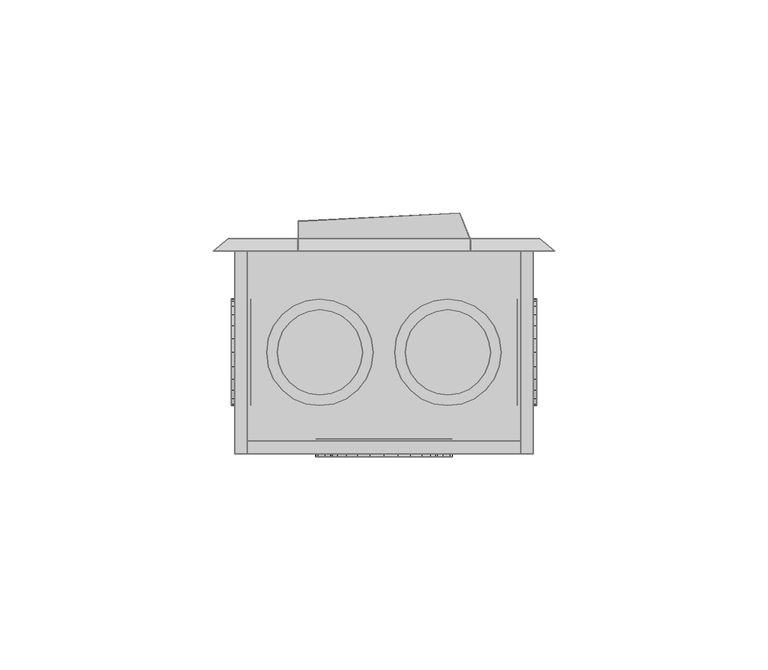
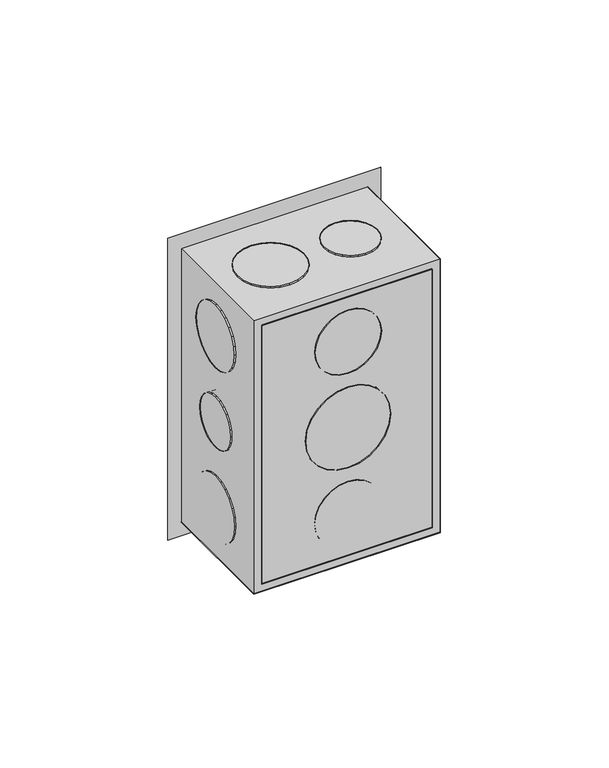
"""IFC4 building model written with IfcOpenShell, lengths in millimetres: proxy geometry,  210795 :  210795."""

from ifc_helpers import new_model, si_unit, origin, place, context, project, spatial, triangles, source, transform, mapped, element, save


def generic_models_db4ceee2(model_context):
    return source(origin(), model_context, "Body", "Tessellation", [
        triangles([(11754.1999786, 31445.4992065, 1254.3000378), (11757.1997955, 31445.4992065, 1148.7000154), (11754.1999786, 31445.4992065, 1145.6999805), (11757.1997955, 31445.4992065, 1251.2999302), (11824.2003571, 31445.4992065, 1254.3000378), (11821.2005402, 31445.4992065, 1251.2999302), (11824.2003571, 31445.4992065, 1145.6999805), (11821.2005402, 31445.4992065, 1148.7000154), (11757.1997955, 31397.9997803, 1251.2999302), (11757.1997955, 31397.9997803, 1148.7000154), (11824.2003571, 31397.9997803, 1254.3000378), (11824.2003571, 31397.9997803, 1145.6999805), (11821.2005402, 31397.9997803, 1251.2999302), (11754.1999786, 31397.9997803, 1145.6999805), (11821.2005402, 31397.9997803, 1148.7000154), (11754.1999786, 31397.9997803, 1254.3000378), (11757.1997955, 31400.9995972, 1251.2999302), (11821.2005402, 31400.9995972, 1148.7000154), (11757.1997955, 31400.9995972, 1148.7000154), (11821.2005402, 31400.9995972, 1251.2999302), (11775.2998535, 31401.4995667, 1191.9999887), (11781.1994934, 31401.4995667, 1186.0999855), (11777.8996948, 31401.4995667, 1188.6999722), (11773.6999512, 31401.4995667, 1195.8999687), (11785.0004242, 31401.4995667, 1184.5000105), (11773.1999817, 31401.4995667, 1200.0000092), (11789.2001678, 31401.4995667, 1183.9999683), (11773.6999512, 31401.4995667, 1204.0999769), (11793.2999176, 31401.4995667, 1184.5000105), (11775.2998535, 31401.4995667, 1208.0000296), (11797.1996796, 31401.4995667, 1186.0999855), (11777.8996948, 31401.4995667, 1211.2999735), (11800.4994781, 31401.4995667, 1188.6999722), (11781.1994934, 31401.4995667, 1213.9000328), (11803.0004883, 31401.4995667, 1191.9999887), (11785.0004242, 31401.4995667, 1215.5000078), (11804.6003906, 31401.4995667, 1195.8999687), (11789.2001678, 31401.4995667, 1215.9999773), (11805.200354, 31401.4995667, 1200.0000092), (11793.2999176, 31401.4995667, 1215.5000078), (11804.6003906, 31401.4995667, 1204.0999769), (11797.1996796, 31401.4995667, 1213.9000328), (11803.0004883, 31401.4995667, 1208.0000296), (11800.4994781, 31401.4995667, 1211.2999735), (11793.2999176, 31397.299823, 1184.5000105), (11789.2001678, 31397.299823, 1183.9999683), (11785.0004242, 31397.299823, 1184.5000105), (11781.1994934, 31397.299823, 1186.0999855), (11777.8996948, 31397.299823, 1188.6999722), (11775.2998535, 31397.299823, 1191.9999887), (11773.6999512, 31397.299823, 1195.8999687), (11773.1999817, 31397.299823, 1200.0000092), (11773.6999512, 31397.299823, 1204.0999769), (11775.2998535, 31397.299823, 1208.0000296), (11777.8996948, 31397.299823, 1211.2999735), (11781.1994934, 31397.299823, 1213.9000328), (11785.0004242, 31397.299823, 1215.5000078), (11789.2001678, 31397.299823, 1215.9999773), (11793.2999176, 31397.299823, 1215.5000078), (11797.1996796, 31397.299823, 1213.9000328), (11800.4994781, 31397.299823, 1211.2999735), (11803.0004883, 31397.299823, 1208.0000296), (11804.6003906, 31397.299823, 1204.0999769), (11805.200354, 31397.299823, 1200.0000092), (11804.6003906, 31397.299823, 1195.8999687), (11803.0004883, 31397.299823, 1191.9999887), (11800.4994781, 31397.299823, 1188.6999722), (11797.1996796, 31397.299823, 1186.0999855), (11778.2996704, 31401.4995667, 1227.8000565), (11782.9005524, 31401.4995667, 1223.2000465), (11780.2995483, 31401.4995667, 1225.2000698), (11777.0997437, 31401.4995667, 1230.8000187), (11785.9003693, 31401.4995667, 1221.8999805), (11776.6997681, 31401.4995667, 1233.9999687), (11789.2001678, 31401.4995667, 1221.500005), (11777.0997437, 31401.4995667, 1237.2000641), (11792.3999725, 31401.4995667, 1221.8999805), (11778.2996704, 31401.4995667, 1240.3000202), (11795.3997894, 31401.4995667, 1223.2000465), (11780.2995483, 31401.4995667, 1242.800013), (11797.9996307, 31401.4995667, 1225.2000698), (11799.9995087, 31401.4995667, 1227.8000565), (11782.9005524, 31401.4995667, 1244.8000362), (11785.9003693, 31401.4995667, 1246.0999569), (11801.1994354, 31401.4995667, 1230.8000187), (11789.2001678, 31401.4995667, 1246.4999325), (11801.7005676, 31401.4995667, 1233.9999687), (11792.3999725, 31401.4995667, 1246.0999569), (11801.1994354, 31401.4995667, 1237.2000641), (11799.9995087, 31401.4995667, 1240.3000202), (11795.3997894, 31401.4995667, 1244.8000362), (11797.9996307, 31401.4995667, 1242.800013), (11801.1994354, 31397.299823, 1230.8000187), (11799.9995087, 31397.299823, 1227.8000565), (11797.9996307, 31397.299823, 1225.2000698), (11795.3997894, 31397.299823, 1223.2000465), (11792.3999725, 31397.299823, 1221.8999805), (11789.2001678, 31397.299823, 1221.500005), (11785.9003693, 31397.299823, 1221.8999805), (11782.9005524, 31397.299823, 1223.2000465), (11780.2995483, 31397.299823, 1225.2000698), (11778.2996704, 31397.299823, 1227.8000565), (11777.0997437, 31397.299823, 1230.8000187), (11776.6997681, 31397.299823, 1233.9999687), (11777.0997437, 31397.299823, 1237.2000641), (11778.2996704, 31397.299823, 1240.3000202), (11780.2995483, 31397.299823, 1242.800013), (11782.9005524, 31397.299823, 1244.8000362), (11785.9003693, 31397.299823, 1246.0999569), (11789.2001678, 31397.299823, 1246.4999325), (11792.3999725, 31397.299823, 1246.0999569), (11795.3997894, 31397.299823, 1244.8000362), (11797.9996307, 31397.299823, 1242.800013), (11799.9995087, 31397.299823, 1240.3000202), (11801.1994354, 31397.299823, 1237.2000641), (11801.7005676, 31397.299823, 1233.9999687), (11782.9005524, 31397.299823, 1155.1999821), (11778.2996704, 31397.299823, 1159.6999981), (11780.2995483, 31397.299823, 1157.2000053), (11785.9003693, 31397.299823, 1153.8999887), (11777.0997437, 31397.299823, 1162.8000269), (11789.2001678, 31397.299823, 1153.5000132), (11776.6997681, 31397.299823, 1165.9999769), (11792.3999725, 31397.299823, 1153.8999887), (11777.0997437, 31397.299823, 1169.1999996), (11795.3997894, 31397.299823, 1155.1999821), (11778.2996704, 31397.299823, 1172.2000345), (11797.9996307, 31397.299823, 1157.2000053), (11780.2995483, 31397.299823, 1174.8000212), (11799.9995087, 31397.299823, 1159.6999981), (11782.9005524, 31397.299823, 1176.7999718), (11801.1994354, 31397.299823, 1162.8000269), (11785.9003693, 31397.299823, 1178.0999651), (11789.2001678, 31397.299823, 1178.5000134), (11801.7005676, 31397.299823, 1165.9999769), (11801.1994354, 31397.299823, 1169.1999996), (11792.3999725, 31397.299823, 1178.0999651), (11799.9995087, 31397.299823, 1172.2000345), (11795.3997894, 31397.299823, 1176.7999718), (11797.9996307, 31397.299823, 1174.8000212), (11785.9003693, 31401.4995667, 1178.0999651), (11789.2001678, 31401.4995667, 1178.5000134), (11782.9005524, 31401.4995667, 1176.7999718), (11780.2995483, 31401.4995667, 1174.8000212), (11778.2996704, 31401.4995667, 1172.2000345), (11777.0997437, 31401.4995667, 1169.1999996), (11776.6997681, 31401.4995667, 1165.9999769), (11777.0997437, 31401.4995667, 1162.8000269), (11778.2996704, 31401.4995667, 1159.6999981), (11780.2995483, 31401.4995667, 1157.2000053), (11782.9005524, 31401.4995667, 1155.1999821), (11785.9003693, 31401.4995667, 1153.8999887), (11789.2001678, 31401.4995667, 1153.5000132), (11792.3999725, 31401.4995667, 1153.8999887), (11795.3997894, 31401.4995667, 1155.1999821), (11797.9996307, 31401.4995667, 1157.2000053), (11799.9995087, 31401.4995667, 1159.6999981), (11801.1994354, 31401.4995667, 1162.8000269), (11801.7005676, 31401.4995667, 1165.9999769), (11801.1994354, 31401.4995667, 1169.1999996), (11799.9995087, 31401.4995667, 1172.2000345), (11797.9996307, 31401.4995667, 1174.8000212), (11795.3997894, 31401.4995667, 1176.7999718), (11792.3999725, 31401.4995667, 1178.0999651), (11757.9997467, 31416.8009583, 1191.3000315), (11757.9997467, 31413.0988586, 1195.0000237), (11757.9997467, 31414.7010864, 1192.9000065), (11757.9997467, 31412.0989197, 1197.4000225), (11757.9997467, 31419.2008118, 1190.3000198), (11757.9997467, 31411.798938, 1200.0000092), (11757.9997467, 31421.8006531, 1189.9999655), (11757.9997467, 31424.3005005, 1190.3000198), (11757.9997467, 31412.0989197, 1202.5999958), (11757.9997467, 31413.0988586, 1204.9999947), (11757.9997467, 31426.8003479, 1191.3000315), (11757.9997467, 31414.7010864, 1207.1000118), (11757.9997467, 31428.8002258, 1192.9000065), (11757.9997467, 31430.4001282, 1195.0000237), (11757.9997467, 31416.8009583, 1208.6999868), (11757.9997467, 31431.4000671, 1197.4000225), (11757.9997467, 31419.2008118, 1209.6999985), (11757.9997467, 31431.8000427, 1200.0000092), (11757.9997467, 31421.8006531, 1209.9999802), (11757.9997467, 31431.4000671, 1202.5999958), (11757.9997467, 31424.3005005, 1209.6999985), (11757.9997467, 31426.8003479, 1208.6999868), (11757.9997467, 31430.4001282, 1204.9999947), (11757.9997467, 31428.8002258, 1207.1000118), (11753.4000275, 31421.8006531, 1189.9999655), (11753.4000275, 31419.2008118, 1190.3000198), (11753.4000275, 31424.3005005, 1190.3000198), (11753.4000275, 31426.8003479, 1191.3000315), (11753.4000275, 31428.8002258, 1192.9000065), (11753.4000275, 31430.4001282, 1195.0000237), (11753.4000275, 31431.4000671, 1197.4000225), (11753.4000275, 31431.8000427, 1200.0000092), (11753.4000275, 31431.4000671, 1202.5999958), (11753.4000275, 31430.4001282, 1204.9999947), (11753.4000275, 31428.8002258, 1207.1000118), (11753.4000275, 31426.8003479, 1208.6999868), (11753.4000275, 31424.3005005, 1209.6999985), (11753.4000275, 31421.8006531, 1209.9999802), (11753.4000275, 31419.2008118, 1209.6999985), (11753.4000275, 31416.8009583, 1208.6999868), (11753.4000275, 31414.7010864, 1207.1000118), (11753.4000275, 31413.0988586, 1204.9999947), (11753.4000275, 31412.0989197, 1202.5999958), (11753.4000275, 31411.798938, 1200.0000092), (11753.4000275, 31412.0989197, 1197.4000225), (11753.4000275, 31413.0988586, 1195.0000237), (11753.4000275, 31414.7010864, 1192.9000065), (11753.4000275, 31416.8009583, 1191.3000315), (11757.9997467, 31415.5010376, 1223.2000465), (11757.9997467, 31410.8989929, 1227.8000565), (11757.9997467, 31412.8988708, 1225.2000698), (11757.9997467, 31418.5008545, 1221.8999805), (11757.9997467, 31409.6990662, 1230.8000187), (11757.9997467, 31409.2990906, 1233.9999687), (11757.9997467, 31421.8006531, 1221.500005), (11757.9997467, 31425.0004578, 1221.8999805), (11757.9997467, 31409.6990662, 1237.2000641), (11757.9997467, 31410.8989929, 1240.3000202), (11757.9997467, 31428.0002747, 1223.2000465), (11757.9997467, 31430.600116, 1225.2000698), (11757.9997467, 31412.8988708, 1242.800013), (11757.9997467, 31432.5999939, 1227.8000565), (11757.9997467, 31415.5010376, 1244.8000362), (11757.9997467, 31433.7999207, 1230.8000187), (11757.9997467, 31418.5008545, 1246.0999569), (11757.9997467, 31434.2998901, 1233.9999687), (11757.9997467, 31421.8006531, 1246.4999325), (11757.9997467, 31433.7999207, 1237.2000641), (11757.9997467, 31425.0004578, 1246.0999569), (11757.9997467, 31432.5999939, 1240.3000202), (11757.9997467, 31428.0002747, 1244.8000362), (11757.9997467, 31430.600116, 1242.800013), (11753.4000275, 31421.8006531, 1221.500005), (11753.4000275, 31418.5008545, 1221.8999805), (11753.4000275, 31425.0004578, 1221.8999805), (11753.4000275, 31428.0002747, 1223.2000465), (11753.4000275, 31430.600116, 1225.2000698), (11753.4000275, 31432.5999939, 1227.8000565), (11753.4000275, 31433.7999207, 1230.8000187), (11753.4000275, 31434.2998901, 1233.9999687), (11753.4000275, 31433.7999207, 1237.2000641), (11753.4000275, 31432.5999939, 1240.3000202), (11753.4000275, 31430.600116, 1242.800013), (11753.4000275, 31428.0002747, 1244.8000362), (11753.4000275, 31425.0004578, 1246.0999569), (11753.4000275, 31421.8006531, 1246.4999325), (11753.4000275, 31418.5008545, 1246.0999569), (11753.4000275, 31415.5010376, 1244.8000362), (11753.4000275, 31412.8988708, 1242.800013), (11753.4000275, 31410.8989929, 1240.3000202), (11753.4000275, 31409.6990662, 1237.2000641), (11753.4000275, 31409.2990906, 1233.9999687), (11753.4000275, 31409.6990662, 1230.8000187), (11753.4000275, 31410.8989929, 1227.8000565), (11753.4000275, 31412.8988708, 1225.2000698), (11753.4000275, 31415.5010376, 1223.2000465), (11753.4000275, 31410.8989929, 1159.6999981), (11753.4000275, 31415.5010376, 1155.1999821), (11753.4000275, 31412.8988708, 1157.2000053), (11753.4000275, 31409.6990662, 1162.8000269), (11753.4000275, 31418.5008545, 1153.8999887), (11753.4000275, 31409.2990906, 1165.9999769), (11753.4000275, 31421.8006531, 1153.5000132), (11753.4000275, 31409.6990662, 1169.1999996), (11753.4000275, 31425.0004578, 1153.8999887), (11753.4000275, 31410.8989929, 1172.2000345), (11753.4000275, 31428.0002747, 1155.1999821), (11753.4000275, 31412.8988708, 1174.8000212), (11753.4000275, 31430.600116, 1157.2000053), (11753.4000275, 31415.5010376, 1176.7999718), (11753.4000275, 31432.5999939, 1159.6999981), (11753.4000275, 31418.5008545, 1178.0999651), (11753.4000275, 31433.7999207, 1162.8000269), (11753.4000275, 31421.8006531, 1178.5000134), (11753.4000275, 31434.2998901, 1165.9999769), (11753.4000275, 31425.0004578, 1178.0999651), (11753.4000275, 31433.7999207, 1169.1999996), (11753.4000275, 31428.0002747, 1176.7999718), (11753.4000275, 31432.5999939, 1172.2000345), (11753.4000275, 31430.600116, 1174.8000212), (11757.9997467, 31418.5008545, 1178.0999651), (11757.9997467, 31421.8006531, 1178.5000134), (11757.9997467, 31425.0004578, 1178.0999651), (11757.9997467, 31428.0002747, 1176.7999718), (11757.9997467, 31430.600116, 1174.8000212), (11757.9997467, 31432.5999939, 1172.2000345), (11757.9997467, 31433.7999207, 1169.1999996), (11757.9997467, 31434.2998901, 1165.9999769), (11757.9997467, 31433.7999207, 1162.8000269), (11757.9997467, 31432.5999939, 1159.6999981), (11757.9997467, 31430.600116, 1157.2000053), (11757.9997467, 31428.0002747, 1155.1999821), (11757.9997467, 31425.0004578, 1153.8999887), (11757.9997467, 31421.8006531, 1153.5000132), (11757.9997467, 31418.5008545, 1153.8999887), (11757.9997467, 31415.5010376, 1155.1999821), (11757.9997467, 31412.8988708, 1157.2000053), (11757.9997467, 31410.8989929, 1159.6999981), (11757.9997467, 31409.6990662, 1162.8000269), (11757.9997467, 31409.2990906, 1165.9999769), (11757.9997467, 31409.6990662, 1169.1999996), (11757.9997467, 31410.8989929, 1172.2000345), (11757.9997467, 31412.8988708, 1174.8000212), (11757.9997467, 31415.5010376, 1176.7999718), (11820.3994263, 31413.0988586, 1195.0000237), (11820.3994263, 31416.8009583, 1191.3000315), (11820.3994263, 31414.7010864, 1192.9000065), (11820.3994263, 31412.0989197, 1197.4000225), (11820.3994263, 31419.2008118, 1190.3000198), (11820.3994263, 31411.798938, 1200.0000092), (11820.3994263, 31421.8006531, 1189.9999655), (11820.3994263, 31412.0989197, 1202.5999958), (11820.3994263, 31424.3005005, 1190.3000198), (11820.3994263, 31413.0988586, 1204.9999947), (11820.3994263, 31426.8003479, 1191.3000315), (11820.3994263, 31414.7010864, 1207.1000118), (11820.3994263, 31428.8002258, 1192.9000065), (11820.3994263, 31416.8009583, 1208.6999868), (11820.3994263, 31430.4001282, 1195.0000237), (11820.3994263, 31419.2008118, 1209.6999985), (11820.3994263, 31431.4000671, 1197.4000225), (11820.3994263, 31431.8000427, 1200.0000092), (11820.3994263, 31421.8006531, 1209.9999802), (11820.3994263, 31424.3005005, 1209.6999985), (11820.3994263, 31431.4000671, 1202.5999958), (11820.3994263, 31426.8003479, 1208.6999868), (11820.3994263, 31430.4001282, 1204.9999947), (11820.3994263, 31428.8002258, 1207.1000118), (11825.0003082, 31419.2008118, 1209.6999985), (11825.0003082, 31421.8006531, 1209.9999802), (11825.0003082, 31424.3005005, 1209.6999985), (11825.0003082, 31426.8003479, 1208.6999868), (11825.0003082, 31428.8002258, 1207.1000118), (11825.0003082, 31430.4001282, 1204.9999947), (11825.0003082, 31431.4000671, 1202.5999958), (11825.0003082, 31431.8000427, 1200.0000092), (11825.0003082, 31431.4000671, 1197.4000225), (11825.0003082, 31430.4001282, 1195.0000237), (11825.0003082, 31428.8002258, 1192.9000065), (11825.0003082, 31426.8003479, 1191.3000315), (11825.0003082, 31424.3005005, 1190.3000198), (11825.0003082, 31421.8006531, 1189.9999655), (11825.0003082, 31419.2008118, 1190.3000198), (11825.0003082, 31416.8009583, 1191.3000315), (11825.0003082, 31414.7010864, 1192.9000065), (11825.0003082, 31413.0988586, 1195.0000237), (11825.0003082, 31412.0989197, 1197.4000225), (11825.0003082, 31411.798938, 1200.0000092), (11825.0003082, 31412.0989197, 1202.5999958), (11825.0003082, 31413.0988586, 1204.9999947), (11825.0003082, 31414.7010864, 1207.1000118), (11825.0003082, 31416.8009583, 1208.6999868), (11820.3994263, 31410.8989929, 1159.6999981), (11820.3994263, 31415.5010376, 1155.1999821), (11820.3994263, 31412.8988708, 1157.2000053), (11820.3994263, 31409.6990662, 1162.8000269), (11820.3994263, 31418.5008545, 1153.8999887), (11820.3994263, 31409.2990906, 1165.9999769), (11820.3994263, 31421.8006531, 1153.5000132), (11820.3994263, 31409.6990662, 1169.1999996), (11820.3994263, 31425.0004578, 1153.8999887), (11820.3994263, 31410.8989929, 1172.2000345), (11820.3994263, 31428.0002747, 1155.1999821), (11820.3994263, 31412.8988708, 1174.8000212), (11820.3994263, 31430.600116, 1157.2000053), (11820.3994263, 31415.5010376, 1176.7999718), (11820.3994263, 31432.5999939, 1159.6999981), (11820.3994263, 31418.5008545, 1178.0999651), (11820.3994263, 31433.7999207, 1162.8000269), (11820.3994263, 31421.8006531, 1178.5000134), (11820.3994263, 31434.2998901, 1165.9999769), (11820.3994263, 31425.0004578, 1178.0999651), (11820.3994263, 31433.7999207, 1169.1999996), (11820.3994263, 31428.0002747, 1176.7999718), (11820.3994263, 31432.5999939, 1172.2000345), (11820.3994263, 31430.600116, 1174.8000212), (11825.0003082, 31418.5008545, 1178.0999651), (11825.0003082, 31421.8006531, 1178.5000134), (11825.0003082, 31425.0004578, 1178.0999651), (11825.0003082, 31428.0002747, 1176.7999718), (11825.0003082, 31430.600116, 1174.8000212), (11825.0003082, 31432.5999939, 1172.2000345), (11825.0003082, 31433.7999207, 1169.1999996), (11825.0003082, 31434.2998901, 1165.9999769), (11825.0003082, 31433.7999207, 1162.8000269), (11825.0003082, 31432.5999939, 1159.6999981), (11825.0003082, 31430.600116, 1157.2000053), (11825.0003082, 31428.0002747, 1155.1999821), (11825.0003082, 31425.0004578, 1153.8999887), (11825.0003082, 31421.8006531, 1153.5000132), (11825.0003082, 31418.5008545, 1153.8999887), (11825.0003082, 31415.5010376, 1155.1999821), (11825.0003082, 31412.8988708, 1157.2000053), (11825.0003082, 31410.8989929, 1159.6999981), (11825.0003082, 31409.6990662, 1162.8000269), (11825.0003082, 31409.2990906, 1165.9999769), (11825.0003082, 31409.6990662, 1169.1999996), (11825.0003082, 31410.8989929, 1172.2000345), (11825.0003082, 31412.8988708, 1174.8000212), (11825.0003082, 31415.5010376, 1176.7999718), (11825.0003082, 31415.5010376, 1223.2000465), (11825.0003082, 31410.8989929, 1227.8000565), (11825.0003082, 31412.8988708, 1225.2000698), (11825.0003082, 31418.5008545, 1221.8999805), (11825.0003082, 31409.6990662, 1230.8000187), (11825.0003082, 31409.2990906, 1233.9999687), (11825.0003082, 31421.8006531, 1221.500005), (11825.0003082, 31425.0004578, 1221.8999805), (11825.0003082, 31409.6990662, 1237.2000641), (11825.0003082, 31410.8989929, 1240.3000202), (11825.0003082, 31428.0002747, 1223.2000465), (11825.0003082, 31430.600116, 1225.2000698), (11825.0003082, 31412.8988708, 1242.800013), (11825.0003082, 31432.5999939, 1227.8000565), (11825.0003082, 31415.5010376, 1244.8000362), (11825.0003082, 31433.7999207, 1230.8000187), (11825.0003082, 31418.5008545, 1246.0999569), (11825.0003082, 31434.2998901, 1233.9999687), (11825.0003082, 31421.8006531, 1246.4999325), (11825.0003082, 31433.7999207, 1237.2000641), (11825.0003082, 31425.0004578, 1246.0999569), (11825.0003082, 31432.5999939, 1240.3000202), (11825.0003082, 31428.0002747, 1244.8000362), (11825.0003082, 31430.600116, 1242.800013), (11820.3994263, 31421.8006531, 1221.500005), (11820.3994263, 31418.5008545, 1221.8999805), (11820.3994263, 31425.0004578, 1221.8999805), (11820.3994263, 31428.0002747, 1223.2000465), (11820.3994263, 31430.600116, 1225.2000698), (11820.3994263, 31432.5999939, 1227.8000565), (11820.3994263, 31433.7999207, 1230.8000187), (11820.3994263, 31434.2998901, 1233.9999687), (11820.3994263, 31433.7999207, 1237.2000641), (11820.3994263, 31432.5999939, 1240.3000202), (11820.3994263, 31430.600116, 1242.800013), (11820.3994263, 31428.0002747, 1244.8000362), (11820.3994263, 31425.0004578, 1246.0999569), (11820.3994263, 31421.8006531, 1246.4999325), (11820.3994263, 31418.5008545, 1246.0999569), (11820.3994263, 31415.5010376, 1244.8000362), (11820.3994263, 31412.8988708, 1242.800013), (11820.3994263, 31410.8989929, 1240.3000202), (11820.3994263, 31409.6990662, 1237.2000641), (11820.3994263, 31409.2990906, 1233.9999687), (11820.3994263, 31409.6990662, 1230.8000187), (11820.3994263, 31410.8989929, 1227.8000565), (11820.3994263, 31412.8988708, 1225.2000698), (11820.3994263, 31415.5010376, 1223.2000465), (11763.2994232, 31415.5010376, 1250.9999485), (11767.9003052, 31410.8989929, 1250.9999485), (11765.3004639, 31412.8988708, 1250.9999485), (11762.0994965, 31418.5008545, 1250.9999485), (11770.9001221, 31409.6990662, 1250.9999485), (11774.1999207, 31409.2990906, 1250.9999485), (11761.6995209, 31421.8006531, 1250.9999485), (11762.0994965, 31425.0004578, 1250.9999485), (11777.3997253, 31409.6990662, 1250.9999485), (11780.3995422, 31410.8989929, 1250.9999485), (11763.2994232, 31428.0002747, 1250.9999485), (11765.3004639, 31430.600116, 1250.9999485), (11783.0005463, 31412.8988708, 1250.9999485), (11785.0004242, 31415.5010376, 1250.9999485), (11767.9003052, 31432.5999939, 1250.9999485), (11770.9001221, 31433.7999207, 1250.9999485), (11786.200351, 31418.5008545, 1250.9999485), (11774.1999207, 31434.2998901, 1250.9999485), (11786.7003204, 31421.8006531, 1250.9999485), (11777.3997253, 31433.7999207, 1250.9999485), (11786.200351, 31425.0004578, 1250.9999485), (11785.0004242, 31428.0002747, 1250.9999485), (11780.3995422, 31432.5999939, 1250.9999485), (11783.0005463, 31430.600116, 1250.9999485), (11774.1999207, 31409.2990906, 1255.1999828), (11777.3997253, 31409.6990662, 1255.1999828), (11770.9001221, 31409.6990662, 1255.1999828), (11767.9003052, 31410.8989929, 1255.1999828), (11765.3004639, 31412.8988708, 1255.1999828), (11763.2994232, 31415.5010376, 1255.1999828), (11762.0994965, 31418.5008545, 1255.1999828), (11761.6995209, 31421.8006531, 1255.1999828), (11762.0994965, 31425.0004578, 1255.1999828), (11763.2994232, 31428.0002747, 1255.1999828), (11765.3004639, 31430.600116, 1255.1999828), (11767.9003052, 31432.5999939, 1255.1999828), (11770.9001221, 31433.7999207, 1255.1999828), (11774.1999207, 31434.2998901, 1255.1999828), (11777.3997253, 31433.7999207, 1255.1999828), (11780.3995422, 31432.5999939, 1255.1999828), (11783.0005463, 31430.600116, 1255.1999828), (11785.0004242, 31428.0002747, 1255.1999828), (11786.200351, 31425.0004578, 1255.1999828), (11786.7003204, 31421.8006531, 1255.1999828), (11786.200351, 31418.5008545, 1255.1999828), (11785.0004242, 31415.5010376, 1255.1999828), (11783.0005463, 31412.8988708, 1255.1999828), (11780.3995422, 31410.8989929, 1255.1999828), (11795.4997833, 31416.8009583, 1250.9999485), (11799.1995575, 31413.0988586, 1250.9999485), (11797.0996857, 31414.7010864, 1250.9999485), (11801.6005737, 31412.0989197, 1250.9999485), (11794.4998444, 31419.2008118, 1250.9999485), (11804.200415, 31411.798938, 1250.9999485), (11794.1998627, 31421.8006531, 1250.9999485), (11794.4998444, 31424.3005005, 1250.9999485), (11806.8002563, 31412.0989197, 1250.9999485), (11809.2001099, 31413.0988586, 1250.9999485), (11795.4997833, 31426.8003479, 1250.9999485), (11811.1999878, 31414.7010864, 1250.9999485), (11797.0996857, 31428.8002258, 1250.9999485), (11799.1995575, 31430.4001282, 1250.9999485), (11812.7998901, 31416.8009583, 1250.9999485), (11813.7998291, 31419.2008118, 1250.9999485), (11801.6005737, 31431.4000671, 1250.9999485), (11804.200415, 31431.8000427, 1250.9999485), (11814.1998047, 31421.8006531, 1250.9999485), (11806.8002563, 31431.4000671, 1250.9999485), (11813.7998291, 31424.3005005, 1250.9999485), (11809.2001099, 31430.4001282, 1250.9999485), (11812.7998901, 31426.8003479, 1250.9999485), (11811.1999878, 31428.8002258, 1250.9999485), (11806.8002563, 31412.0989197, 1255.1999828), (11809.2001099, 31413.0988586, 1255.1999828), (11804.200415, 31411.798938, 1255.1999828), (11801.6005737, 31412.0989197, 1255.1999828), (11799.1995575, 31413.0988586, 1255.1999828), (11797.0996857, 31414.7010864, 1255.1999828), (11795.4997833, 31416.8009583, 1255.1999828), (11794.4998444, 31419.2008118, 1255.1999828), (11794.1998627, 31421.8006531, 1255.1999828), (11794.4998444, 31424.3005005, 1255.1999828), (11795.4997833, 31426.8003479, 1255.1999828), (11797.0996857, 31428.8002258, 1255.1999828), (11799.1995575, 31430.4001282, 1255.1999828), (11801.6005737, 31431.4000671, 1255.1999828), (11804.200415, 31431.8000427, 1255.1999828), (11806.8002563, 31431.4000671, 1255.1999828), (11809.2001099, 31430.4001282, 1255.1999828), (11811.1999878, 31428.8002258, 1255.1999828), (11812.7998901, 31426.8003479, 1255.1999828), (11813.7998291, 31424.3005005, 1255.1999828), (11814.1998047, 31421.8006531, 1255.1999828), (11813.7998291, 31419.2008118, 1255.1999828), (11812.7998901, 31416.8009583, 1255.1999828), (11811.1999878, 31414.7010864, 1255.1999828), (11765.5004517, 31416.8009583, 1144.8000355), (11769.2002258, 31413.0988586, 1144.8000355), (11767.100354, 31414.7010864, 1144.8000355), (11771.6000793, 31412.0989197, 1144.8000355), (11764.5005127, 31419.2008118, 1144.8000355), (11774.1999207, 31411.798938, 1144.8000355), (11764.200531, 31421.8006531, 1144.8000355), (11764.5005127, 31424.3005005, 1144.8000355), (11776.799762, 31412.0989197, 1144.8000355), (11779.1996155, 31413.0988586, 1144.8000355), (11765.5004517, 31426.8003479, 1144.8000355), (11781.1994934, 31414.7010864, 1144.8000355), (11767.100354, 31428.8002258, 1144.8000355), (11769.2002258, 31430.4001282, 1144.8000355), (11782.8005585, 31416.8009583, 1144.8000355), (11783.8004974, 31419.2008118, 1144.8000355), (11771.6000793, 31431.4000671, 1144.8000355), (11774.1999207, 31431.8000427, 1144.8000355), (11784.200473, 31421.8006531, 1144.8000355), (11776.799762, 31431.4000671, 1144.8000355), (11783.8004974, 31424.3005005, 1144.8000355), (11779.1996155, 31430.4001282, 1144.8000355), (11782.8005585, 31426.8003479, 1144.8000355), (11781.1994934, 31428.8002258, 1144.8000355), (11771.6000793, 31412.0989197, 1149.099991), (11774.1999207, 31411.798938, 1149.099991), (11769.2002258, 31413.0988586, 1149.099991), (11767.100354, 31414.7010864, 1149.099991), (11765.5004517, 31416.8009583, 1149.099991), (11764.5005127, 31419.2008118, 1149.099991), (11764.200531, 31421.8006531, 1149.099991), (11764.5005127, 31424.3005005, 1149.099991), (11765.5004517, 31426.8003479, 1149.099991), (11767.100354, 31428.8002258, 1149.099991), (11769.2002258, 31430.4001282, 1149.099991), (11771.6000793, 31431.4000671, 1149.099991), (11774.1999207, 31431.8000427, 1149.099991), (11776.799762, 31431.4000671, 1149.099991), (11779.1996155, 31430.4001282, 1149.099991), (11781.1994934, 31428.8002258, 1149.099991), (11782.8005585, 31426.8003479, 1149.099991), (11783.8004974, 31424.3005005, 1149.099991), (11784.200473, 31421.8006531, 1149.099991), (11783.8004974, 31419.2008118, 1149.099991), (11782.8005585, 31416.8009583, 1149.099991), (11781.1994934, 31414.7010864, 1149.099991), (11779.1996155, 31413.0988586, 1149.099991), (11776.799762, 31412.0989197, 1149.099991), (11793.2999176, 31415.5010376, 1144.8000355), (11797.8996368, 31410.8989929, 1144.8000355), (11795.2997955, 31412.8988708, 1144.8000355), (11792.0999908, 31418.5008545, 1144.8000355), (11800.8994537, 31409.6990662, 1144.8000355), (11804.200415, 31409.2990906, 1144.8000355), (11791.7000153, 31421.8006531, 1144.8000355), (11792.0999908, 31425.0004578, 1144.8000355), (11807.4002197, 31409.6990662, 1144.8000355), (11810.4000366, 31410.8989929, 1144.8000355), (11793.2999176, 31428.0002747, 1144.8000355), (11795.2997955, 31430.600116, 1144.8000355), (11812.9998779, 31412.8988708, 1144.8000355), (11814.9997559, 31415.5010376, 1144.8000355), (11797.8996368, 31432.5999939, 1144.8000355), (11800.8994537, 31433.7999207, 1144.8000355), (11816.1996826, 31418.5008545, 1144.8000355), (11804.200415, 31434.2998901, 1144.8000355), (11816.6996521, 31421.8006531, 1144.8000355), (11807.4002197, 31433.7999207, 1144.8000355), (11816.1996826, 31425.0004578, 1144.8000355), (11814.9997559, 31428.0002747, 1144.8000355), (11810.4000366, 31432.5999939, 1144.8000355), (11812.9998779, 31430.600116, 1144.8000355), (11807.4002197, 31409.6990662, 1149.099991), (11810.4000366, 31410.8989929, 1149.099991), (11804.200415, 31409.2990906, 1149.099991), (11800.8994537, 31409.6990662, 1149.099991), (11797.8996368, 31410.8989929, 1149.099991), (11795.2997955, 31412.8988708, 1149.099991), (11793.2999176, 31415.5010376, 1149.099991), (11792.0999908, 31418.5008545, 1149.099991), (11791.7000153, 31421.8006531, 1149.099991), (11792.0999908, 31425.0004578, 1149.099991), (11793.2999176, 31428.0002747, 1149.099991), (11795.2997955, 31430.600116, 1149.099991), (11797.8996368, 31432.5999939, 1149.099991), (11800.8994537, 31433.7999207, 1149.099991), (11804.200415, 31434.2998901, 1149.099991), (11807.4002197, 31433.7999207, 1149.099991), (11810.4000366, 31432.5999939, 1149.099991), (11812.9998779, 31430.600116, 1149.099991), (11814.9997559, 31428.0002747, 1149.099991), (11816.1996826, 31425.0004578, 1149.099991), (11816.6996521, 31421.8006531, 1149.099991), (11816.1996826, 31418.5008545, 1149.099991), (11814.9997559, 31415.5010376, 1149.099991), (11812.9998779, 31412.8988708, 1149.099991), (11829.2000519, 31445.4992065, 1139.9999651), (11769.000238, 31445.4992065, 1188.2999966), (11749.2002838, 31445.4992065, 1139.9999651), (11809.4000977, 31445.4992065, 1188.2999966), (11829.2000519, 31445.4992065, 1259.9999805), (11809.4000977, 31445.4992065, 1211.7000217), (11749.2002838, 31445.4992065, 1259.9999805), (11769.000238, 31445.4992065, 1211.7000217), (11809.4000977, 31448.4990234, 1188.2999966), (11809.4000977, 31448.4990234, 1211.7000217), (11769.000238, 31448.4990234, 1188.2999966), (11769.000238, 31448.4990234, 1211.7000217), (11752.7000702, 31448.4990234, 1143.4999695), (11752.7000702, 31448.4990234, 1256.5000488), (11825.7002655, 31448.4990234, 1143.4999695), (11825.7002655, 31448.4990234, 1256.5000488), (11769.1002319, 31452.5011047, 1188.1000088), (11809.5000916, 31445.4992065, 1188.1000088), (11769.1002319, 31445.4992065, 1188.1000088), (11806.9002502, 31454.4009888, 1188.1000088), (11809.5000916, 31447.999054, 1188.1000088), (11769.1002319, 31445.4992065, 1211.500034), (11809.5000916, 31445.4992065, 1211.500034), (11769.1002319, 31452.5011047, 1211.500034), (11806.9002502, 31454.4009888, 1211.500034), (11809.5000916, 31447.999054, 1211.500034)], [[1, 2, 3], [2, 1, 4], [5, 4, 1], [4, 5, 6], [3, 2, 7], [7, 2, 8], [7, 8, 6], [7, 6, 5], [2, 9, 10], [9, 2, 4], [7, 11, 12], [11, 7, 5], [4, 13, 9], [13, 4, 6], [3, 12, 14], [12, 3, 7], [13, 8, 15], [8, 13, 6], [16, 3, 14], [3, 16, 1], [15, 2, 10], [2, 15, 8], [11, 1, 16], [1, 11, 5], [12, 10, 14], [10, 12, 15], [11, 15, 12], [15, 11, 13], [14, 10, 16], [16, 10, 9], [16, 9, 13], [16, 13, 11], [17, 18, 19], [18, 17, 20], [18, 13, 15], [13, 18, 20], [19, 15, 10], [15, 19, 18], [9, 19, 10], [19, 9, 17], [13, 17, 9], [17, 13, 20], [15, 9, 10], [9, 15, 13], [21, 22, 23], [22, 21, 24], [25, 22, 24], [25, 24, 26], [27, 25, 26], [27, 26, 28], [29, 27, 28], [29, 28, 30], [31, 29, 30], [31, 30, 32], [31, 32, 33], [33, 32, 34], [33, 34, 35], [35, 34, 36], [35, 36, 37], [37, 36, 38], [37, 38, 39], [39, 38, 40], [39, 40, 41], [41, 40, 42], [41, 42, 43], [43, 42, 44], [27, 45, 46], [45, 27, 29], [25, 46, 47], [46, 25, 27], [22, 47, 48], [47, 22, 25], [23, 48, 49], [48, 23, 22], [50, 23, 49], [23, 50, 21], [51, 21, 50], [21, 51, 24], [52, 24, 51], [24, 52, 26], [53, 26, 52], [26, 53, 28], [54, 28, 53], [28, 54, 30], [55, 30, 54], [30, 55, 32], [56, 32, 55], [32, 56, 34], [57, 34, 56], [34, 57, 36], [58, 36, 57], [36, 58, 38], [59, 38, 58], [38, 59, 40], [60, 40, 59], [40, 60, 42], [61, 42, 60], [42, 61, 44], [43, 61, 62], [61, 43, 44], [41, 62, 63], [62, 41, 43], [39, 63, 64], [63, 39, 41], [37, 64, 65], [64, 37, 39], [35, 65, 66], [65, 35, 37], [33, 66, 67], [66, 33, 35], [31, 67, 68], [67, 31, 33], [29, 68, 45], [68, 29, 31], [48, 50, 49], [50, 48, 47], [51, 50, 47], [51, 47, 46], [52, 51, 46], [52, 46, 45], [53, 52, 45], [53, 45, 68], [54, 53, 68], [54, 68, 67], [54, 67, 55], [55, 67, 66], [55, 66, 56], [56, 66, 65], [56, 65, 57], [57, 65, 64], [57, 64, 58], [58, 64, 63], [58, 63, 59], [59, 63, 62], [59, 62, 60], [60, 62, 61], [69, 70, 71], [70, 69, 72], [73, 70, 72], [73, 72, 74], [75, 73, 74], [75, 74, 76], [77, 75, 76], [77, 76, 78], [79, 77, 78], [79, 78, 80], [81, 79, 80], [81, 80, 82], [82, 80, 83], [82, 83, 84], [82, 84, 85], [85, 84, 86], [85, 86, 87], [87, 86, 88], [87, 88, 89], [89, 88, 90], [90, 88, 91], [90, 91, 92], [82, 93, 94], [93, 82, 85], [81, 94, 95], [94, 81, 82], [79, 95, 96], [95, 79, 81], [77, 96, 97], [96, 77, 79], [75, 97, 98], [97, 75, 77], [73, 98, 99], [98, 73, 75], [70, 99, 100], [99, 70, 73], [71, 100, 101], [100, 71, 70], [102, 71, 101], [71, 102, 69], [103, 69, 102], [69, 103, 72], [104, 72, 103], [72, 104, 74], [105, 74, 104], [74, 105, 76], [106, 76, 105], [76, 106, 78], [107, 78, 106], [78, 107, 80], [108, 80, 107], [80, 108, 83], [109, 83, 108], [83, 109, 84], [110, 84, 109], [84, 110, 86], [111, 86, 110], [86, 111, 88], [112, 88, 111], [88, 112, 91], [113, 91, 112], [91, 113, 92], [90, 113, 114], [113, 90, 92], [89, 114, 115], [114, 89, 90], [87, 115, 116], [115, 87, 89], [85, 116, 93], [116, 85, 87], [100, 102, 101], [102, 100, 99], [103, 102, 99], [103, 99, 98], [104, 103, 98], [104, 98, 97], [105, 104, 97], [106, 105, 97], [106, 97, 96], [106, 96, 95], [106, 95, 107], [107, 95, 94], [107, 94, 108], [108, 94, 93], [108, 93, 109], [109, 93, 116], [109, 116, 110], [110, 116, 115], [110, 115, 111], [111, 115, 114], [111, 114, 112], [112, 114, 113], [117, 118, 119], [118, 117, 120], [121, 118, 120], [121, 120, 122], [123, 121, 122], [123, 122, 124], [125, 123, 124], [125, 124, 126], [127, 125, 126], [127, 126, 128], [127, 128, 129], [129, 128, 130], [129, 130, 131], [131, 130, 132], [131, 132, 133], [133, 132, 134], [134, 132, 135], [134, 135, 136], [134, 136, 137], [137, 136, 138], [137, 138, 139], [139, 138, 140], [134, 141, 133], [141, 134, 142], [133, 143, 131], [143, 133, 141], [131, 144, 129], [144, 131, 143], [129, 145, 127], [145, 129, 144], [127, 146, 125], [146, 127, 145], [125, 147, 123], [147, 125, 146], [123, 148, 121], [148, 123, 147], [121, 149, 118], [149, 121, 148], [118, 150, 119], [150, 118, 149], [150, 117, 119], [117, 150, 151], [151, 120, 117], [120, 151, 152], [152, 122, 120], [122, 152, 153], [153, 124, 122], [124, 153, 154], [154, 126, 124], [126, 154, 155], [155, 128, 126], [128, 155, 156], [156, 130, 128], [130, 156, 157], [157, 132, 130], [132, 157, 158], [158, 135, 132], [135, 158, 159], [159, 136, 135], [136, 159, 160], [160, 138, 136], [138, 160, 161], [161, 140, 138], [140, 161, 162], [140, 163, 139], [163, 140, 162], [139, 164, 137], [164, 139, 163], [137, 142, 134], [142, 137, 164], [149, 151, 150], [151, 149, 148], [152, 151, 148], [153, 152, 148], [153, 148, 147], [153, 147, 146], [154, 153, 146], [154, 146, 145], [155, 154, 145], [155, 145, 144], [156, 155, 144], [156, 144, 157], [157, 144, 143], [157, 143, 141], [157, 141, 158], [158, 141, 142], [158, 142, 159], [159, 142, 164], [159, 164, 160], [160, 164, 163], [160, 163, 161], [161, 163, 162], [165, 166, 167], [168, 166, 165], [168, 165, 169], [170, 168, 169], [170, 169, 171], [170, 171, 172], [173, 170, 172], [174, 173, 172], [174, 172, 175], [176, 174, 175], [176, 175, 177], [176, 177, 178], [176, 178, 179], [179, 178, 180], [179, 180, 181], [181, 180, 182], [181, 182, 183], [183, 182, 184], [183, 184, 185], [185, 184, 186], [186, 184, 187], [186, 187, 188], [189, 169, 190], [169, 189, 171], [191, 171, 189], [171, 191, 172], [192, 172, 191], [172, 192, 175], [193, 175, 192], [175, 193, 177], [194, 177, 193], [177, 194, 178], [195, 178, 194], [178, 195, 180], [196, 180, 195], [180, 196, 182], [197, 182, 196], [182, 197, 184], [198, 184, 197], [184, 198, 187], [199, 187, 198], [187, 199, 188], [186, 199, 200], [199, 186, 188], [185, 200, 201], [200, 185, 186], [183, 201, 202], [201, 183, 185], [181, 202, 203], [202, 181, 183], [179, 203, 204], [203, 179, 181], [176, 204, 205], [204, 176, 179], [174, 205, 206], [205, 174, 176], [173, 206, 207], [206, 173, 174], [170, 207, 208], [207, 170, 173], [168, 208, 209], [208, 168, 170], [166, 209, 210], [209, 166, 168], [167, 210, 211], [210, 167, 166], [212, 167, 211], [167, 212, 165], [190, 165, 212], [165, 190, 169], [210, 212, 211], [212, 210, 209], [190, 212, 209], [190, 209, 208], [189, 190, 208], [189, 208, 207], [191, 189, 207], [191, 207, 206], [192, 191, 206], [192, 206, 205], [192, 205, 193], [193, 205, 204], [193, 204, 194], [194, 204, 203], [194, 203, 195], [195, 203, 196], [196, 203, 202], [196, 202, 201], [196, 201, 197], [197, 201, 200], [197, 200, 198], [198, 200, 199], [213, 214, 215], [214, 213, 216], [217, 214, 216], [218, 217, 216], [218, 216, 219], [218, 219, 220], [221, 218, 220], [222, 221, 220], [222, 220, 223], [222, 223, 224], [222, 224, 225], [225, 224, 226], [225, 226, 227], [227, 226, 228], [227, 228, 229], [229, 228, 230], [229, 230, 231], [231, 230, 232], [231, 232, 233], [233, 232, 234], [233, 234, 235], [235, 234, 236], [237, 216, 238], [216, 237, 219], [239, 219, 237], [219, 239, 220], [240, 220, 239], [220, 240, 223], [241, 223, 240], [223, 241, 224], [242, 224, 241], [224, 242, 226], [243, 226, 242], [226, 243, 228], [244, 228, 243], [228, 244, 230], [245, 230, 244], [230, 245, 232], [246, 232, 245], [232, 246, 234], [247, 234, 246], [234, 247, 236], [235, 247, 248], [247, 235, 236], [233, 248, 249], [248, 233, 235], [231, 249, 250], [249, 231, 233], [229, 250, 251], [250, 229, 231], [227, 251, 252], [251, 227, 229], [225, 252, 253], [252, 225, 227], [222, 253, 254], [253, 222, 225], [221, 254, 255], [254, 221, 222], [218, 255, 256], [255, 218, 221], [217, 256, 257], [256, 217, 218], [214, 257, 258], [257, 214, 217], [215, 258, 259], [258, 215, 214], [260, 215, 259], [215, 260, 213], [238, 213, 260], [213, 238, 216], [258, 260, 259], [260, 258, 257], [238, 260, 257], [238, 257, 256], [237, 238, 256], [237, 256, 255], [239, 237, 255], [239, 255, 254], [240, 239, 254], [240, 254, 253], [241, 240, 253], [241, 253, 252], [241, 252, 242], [242, 252, 251], [242, 251, 243], [243, 251, 244], [244, 251, 250], [244, 250, 249], [244, 249, 245], [245, 249, 246], [246, 249, 248], [246, 248, 247], [261, 262, 263], [262, 261, 264], [265, 262, 264], [265, 264, 266], [267, 265, 266], [267, 266, 268], [269, 267, 268], [269, 268, 270], [271, 269, 270], [271, 270, 272], [273, 271, 272], [273, 272, 274], [273, 274, 275], [275, 274, 276], [275, 276, 277], [277, 276, 278], [277, 278, 279], [279, 278, 280], [279, 280, 281], [281, 280, 282], [281, 282, 283], [283, 282, 284], [285, 278, 276], [278, 285, 286], [286, 280, 278], [280, 286, 287], [287, 282, 280], [282, 287, 288], [288, 284, 282], [284, 288, 289], [284, 290, 283], [290, 284, 289], [283, 291, 281], [291, 283, 290], [281, 292, 279], [292, 281, 291], [279, 293, 277], [293, 279, 292], [277, 294, 275], [294, 277, 293], [275, 295, 273], [295, 275, 294], [273, 296, 271], [296, 273, 295], [271, 297, 269], [297, 271, 296], [269, 298, 267], [298, 269, 297], [267, 299, 265], [299, 267, 298], [265, 300, 262], [300, 265, 299], [262, 301, 263], [301, 262, 300], [301, 261, 263], [261, 301, 302], [302, 264, 261], [264, 302, 303], [303, 266, 264], [266, 303, 304], [304, 268, 266], [268, 304, 305], [305, 270, 268], [270, 305, 306], [306, 272, 270], [272, 306, 307], [307, 274, 272], [274, 307, 308], [308, 276, 274], [276, 308, 285], [300, 302, 301], [302, 300, 299], [303, 302, 299], [303, 299, 298], [304, 303, 298], [304, 298, 297], [305, 304, 297], [305, 297, 296], [306, 305, 296], [306, 296, 295], [306, 295, 307], [307, 295, 294], [307, 294, 308], [308, 294, 293], [308, 293, 285], [285, 293, 286], [286, 293, 292], [286, 292, 291], [286, 291, 287], [287, 291, 288], [288, 291, 290], [288, 290, 289], [309, 310, 311], [310, 309, 312], [313, 310, 312], [313, 312, 314], [315, 313, 314], [315, 314, 316], [317, 315, 316], [317, 316, 318], [319, 317, 318], [319, 318, 320], [319, 320, 321], [321, 320, 322], [321, 322, 323], [323, 322, 324], [323, 324, 325], [325, 324, 326], [326, 324, 327], [326, 327, 328], [326, 328, 329], [329, 328, 330], [329, 330, 331], [331, 330, 332], [333, 327, 324], [327, 333, 334], [334, 328, 327], [328, 334, 335], [335, 330, 328], [330, 335, 336], [336, 332, 330], [332, 336, 337], [332, 338, 331], [338, 332, 337], [331, 339, 329], [339, 331, 338], [329, 340, 326], [340, 329, 339], [326, 341, 325], [341, 326, 340], [325, 342, 323], [342, 325, 341], [323, 343, 321], [343, 323, 342], [321, 344, 319], [344, 321, 343], [319, 345, 317], [345, 319, 344], [317, 346, 315], [346, 317, 345], [315, 347, 313], [347, 315, 346], [313, 348, 310], [348, 313, 347], [310, 349, 311], [349, 310, 348], [349, 309, 311], [309, 349, 350], [350, 312, 309], [312, 350, 351], [351, 314, 312], [314, 351, 352], [352, 316, 314], [316, 352, 353], [353, 318, 316], [318, 353, 354], [354, 320, 318], [320, 354, 355], [355, 322, 320], [322, 355, 356], [356, 324, 322], [324, 356, 333], [348, 350, 349], [351, 350, 348], [351, 348, 347], [352, 351, 347], [352, 347, 346], [352, 346, 345], [353, 352, 345], [354, 353, 345], [354, 345, 344], [355, 354, 344], [355, 344, 343], [355, 343, 342], [355, 342, 356], [356, 342, 341], [356, 341, 333], [333, 341, 340], [333, 340, 334], [334, 340, 339], [334, 339, 335], [335, 339, 336], [336, 339, 338], [336, 338, 337], [357, 358, 359], [358, 357, 360], [361, 358, 360], [361, 360, 362], [363, 361, 362], [363, 362, 364], [365, 363, 364], [365, 364, 366], [367, 365, 366], [367, 366, 368], [369, 367, 368], [369, 368, 370], [369, 370, 371], [371, 370, 372], [371, 372, 373], [373, 372, 374], [373, 374, 375], [375, 374, 376], [375, 376, 377], [377, 376, 378], [377, 378, 379], [379, 378, 380], [381, 374, 372], [374, 381, 382], [382, 376, 374], [376, 382, 383], [383, 378, 376], [378, 383, 384], [384, 380, 378], [380, 384, 385], [380, 386, 379], [386, 380, 385], [379, 387, 377], [387, 379, 386], [377, 388, 375], [388, 377, 387], [375, 389, 373], [389, 375, 388], [373, 390, 371], [390, 373, 389], [371, 391, 369], [391, 371, 390], [369, 392, 367], [392, 369, 391], [367, 393, 365], [393, 367, 392], [365, 394, 363], [394, 365, 393], [363, 395, 361], [395, 363, 394], [361, 396, 358], [396, 361, 395], [358, 397, 359], [397, 358, 396], [397, 357, 359], [357, 397, 398], [398, 360, 357], [360, 398, 399], [399, 362, 360], [362, 399, 400], [400, 364, 362], [364, 400, 401], [401, 366, 364], [366, 401, 402], [402, 368, 366], [368, 402, 403], [403, 370, 368], [370, 403, 404], [404, 372, 370], [372, 404, 381], [396, 398, 397], [398, 396, 395], [399, 398, 395], [399, 395, 394], [400, 399, 394], [400, 394, 393], [401, 400, 393], [401, 393, 392], [402, 401, 392], [402, 392, 391], [402, 391, 403], [403, 391, 390], [403, 390, 404], [404, 390, 389], [404, 389, 381], [381, 389, 382], [382, 389, 388], [382, 388, 387], [382, 387, 383], [383, 387, 384], [384, 387, 386], [384, 386, 385], [405, 406, 407], [406, 405, 408], [409, 406, 408], [410, 409, 408], [410, 408, 411], [410, 411, 412], [413, 410, 412], [414, 413, 412], [414, 412, 415], [414, 415, 416], [414, 416, 417], [417, 416, 418], [417, 418, 419], [419, 418, 420], [419, 420, 421], [421, 420, 422], [421, 422, 423], [423, 422, 424], [423, 424, 425], [425, 424, 426], [425, 426, 427], [427, 426, 428], [429, 408, 430], [408, 429, 411], [431, 411, 429], [411, 431, 412], [432, 412, 431], [412, 432, 415], [433, 415, 432], [415, 433, 416], [434, 416, 433], [416, 434, 418], [435, 418, 434], [418, 435, 420], [436, 420, 435], [420, 436, 422], [437, 422, 436], [422, 437, 424], [438, 424, 437], [424, 438, 426], [439, 426, 438], [426, 439, 428], [427, 439, 440], [439, 427, 428], [425, 440, 441], [440, 425, 427], [423, 441, 442], [441, 423, 425], [421, 442, 443], [442, 421, 423], [419, 443, 444], [443, 419, 421], [417, 444, 445], [444, 417, 419], [414, 445, 446], [445, 414, 417], [413, 446, 447], [446, 413, 414], [410, 447, 448], [447, 410, 413], [409, 448, 449], [448, 409, 410], [406, 449, 450], [449, 406, 409], [407, 450, 451], [450, 407, 406], [452, 407, 451], [407, 452, 405], [430, 405, 452], [405, 430, 408], [450, 452, 451], [452, 450, 449], [430, 452, 449], [430, 449, 448], [429, 430, 448], [429, 448, 447], [431, 429, 447], [431, 447, 446], [432, 431, 446], [432, 446, 445], [433, 432, 445], [433, 445, 444], [433, 444, 434], [434, 444, 443], [434, 443, 435], [435, 443, 436], [436, 443, 442], [436, 442, 441], [436, 441, 437], [437, 441, 438], [438, 441, 440], [438, 440, 439], [453, 454, 455], [454, 453, 456], [457, 454, 456], [458, 457, 456], [458, 456, 459], [458, 459, 460], [461, 458, 460], [462, 461, 460], [462, 460, 463], [462, 463, 464], [462, 464, 465], [465, 464, 466], [466, 464, 467], [466, 467, 468], [466, 468, 469], [469, 468, 470], [469, 470, 471], [471, 470, 472], [471, 472, 473], [473, 472, 474], [474, 472, 475], [474, 475, 476], [461, 477, 458], [477, 461, 478], [458, 479, 457], [479, 458, 477], [457, 480, 454], [480, 457, 479], [454, 481, 455], [481, 454, 480], [481, 453, 455], [453, 481, 482], [482, 456, 453], [456, 482, 483], [483, 459, 456], [459, 483, 484], [484, 460, 459], [460, 484, 485], [485, 463, 460], [463, 485, 486], [486, 464, 463], [464, 486, 487], [487, 467, 464], [467, 487, 488], [488, 468, 467], [468, 488, 489], [489, 470, 468], [470, 489, 490], [490, 472, 470], [472, 490, 491], [491, 475, 472], [475, 491, 492], [492, 476, 475], [476, 492, 493], [476, 494, 474], [494, 476, 493], [474, 495, 473], [495, 474, 494], [473, 496, 471], [496, 473, 495], [471, 497, 469], [497, 471, 496], [469, 498, 466], [498, 469, 497], [466, 499, 465], [499, 466, 498], [465, 500, 462], [500, 465, 499], [462, 478, 461], [478, 462, 500], [480, 482, 481], [483, 482, 480], [483, 480, 479], [483, 479, 477], [484, 483, 477], [485, 484, 477], [485, 477, 478], [485, 478, 500], [486, 485, 500], [487, 486, 500], [487, 500, 499], [487, 499, 498], [487, 498, 488], [488, 498, 489], [489, 498, 497], [489, 497, 490], [490, 497, 496], [490, 496, 491], [491, 496, 495], [491, 495, 494], [491, 494, 492], [492, 494, 493], [501, 502, 503], [504, 502, 501], [504, 501, 505], [506, 504, 505], [506, 505, 507], [506, 507, 508], [509, 506, 508], [510, 509, 508], [510, 508, 511], [512, 510, 511], [512, 511, 513], [512, 513, 514], [512, 514, 515], [515, 514, 516], [516, 514, 517], [516, 517, 518], [516, 518, 519], [519, 518, 520], [519, 520, 521], [521, 520, 522], [521, 522, 523], [523, 522, 524], [510, 525, 509], [525, 510, 526], [509, 527, 506], [527, 509, 525], [506, 528, 504], [528, 506, 527], [504, 529, 502], [529, 504, 528], [502, 530, 503], [530, 502, 529], [530, 501, 503], [501, 530, 531], [531, 505, 501], [505, 531, 532], [532, 507, 505], [507, 532, 533], [533, 508, 507], [508, 533, 534], [534, 511, 508], [511, 534, 535], [535, 513, 511], [513, 535, 536], [536, 514, 513], [514, 536, 537], [537, 517, 514], [517, 537, 538], [538, 518, 517], [518, 538, 539], [539, 520, 518], [520, 539, 540], [540, 522, 520], [522, 540, 541], [541, 524, 522], [524, 541, 542], [524, 543, 523], [543, 524, 542], [523, 544, 521], [544, 523, 543], [521, 545, 519], [545, 521, 544], [519, 546, 516], [546, 519, 545], [516, 547, 515], [547, 516, 546], [515, 548, 512], [548, 515, 547], [512, 526, 510], [526, 512, 548], [529, 531, 530], [531, 529, 528], [532, 531, 528], [532, 528, 527], [533, 532, 527], [534, 533, 527], [534, 527, 525], [534, 525, 526], [535, 534, 526], [535, 526, 548], [535, 548, 536], [536, 548, 537], [537, 548, 547], [537, 547, 546], [537, 546, 538], [538, 546, 539], [539, 546, 545], [539, 545, 540], [540, 545, 544], [540, 544, 541], [541, 544, 543], [541, 543, 542], [549, 550, 551], [552, 550, 549], [552, 549, 553], [554, 552, 553], [554, 553, 555], [554, 555, 556], [557, 554, 556], [558, 557, 556], [558, 556, 559], [560, 558, 559], [560, 559, 561], [560, 561, 562], [560, 562, 563], [563, 562, 564], [564, 562, 565], [564, 565, 566], [564, 566, 567], [567, 566, 568], [567, 568, 569], [569, 568, 570], [569, 570, 571], [571, 570, 572], [554, 573, 552], [573, 554, 574], [552, 575, 550], [575, 552, 573], [550, 576, 551], [576, 550, 575], [576, 549, 551], [549, 576, 577], [577, 553, 549], [553, 577, 578], [578, 555, 553], [555, 578, 579], [579, 556, 555], [556, 579, 580], [580, 559, 556], [559, 580, 581], [581, 561, 559], [561, 581, 582], [582, 562, 561], [562, 582, 583], [583, 565, 562], [565, 583, 584], [584, 566, 565], [566, 584, 585], [585, 568, 566], [568, 585, 586], [586, 570, 568], [570, 586, 587], [587, 572, 570], [572, 587, 588], [572, 589, 571], [589, 572, 588], [571, 590, 569], [590, 571, 589], [569, 591, 567], [591, 569, 590], [567, 592, 564], [592, 567, 591], [564, 593, 563], [593, 564, 592], [563, 594, 560], [594, 563, 593], [560, 595, 558], [595, 560, 594], [558, 596, 557], [596, 558, 595], [557, 574, 554], [574, 557, 596], [575, 577, 576], [577, 575, 573], [578, 577, 573], [578, 573, 574], [579, 578, 574], [580, 579, 574], [580, 574, 596], [580, 596, 595], [581, 580, 595], [581, 595, 594], [581, 594, 582], [582, 594, 583], [583, 594, 593], [583, 593, 592], [583, 592, 584], [584, 592, 585], [585, 592, 591], [585, 591, 586], [586, 591, 590], [586, 590, 587], [587, 590, 589], [587, 589, 588], [597, 598, 599], [598, 597, 600], [601, 598, 600], [602, 601, 600], [602, 600, 603], [602, 603, 604], [605, 602, 604], [606, 605, 604], [606, 604, 607], [606, 607, 608], [606, 608, 609], [609, 608, 610], [610, 608, 611], [610, 611, 612], [610, 612, 613], [613, 612, 614], [613, 614, 615], [615, 614, 616], [615, 616, 617], [617, 616, 618], [618, 616, 619], [618, 619, 620], [606, 621, 605], [621, 606, 622], [605, 623, 602], [623, 605, 621], [602, 624, 601], [624, 602, 623], [601, 625, 598], [625, 601, 624], [598, 626, 599], [626, 598, 625], [626, 597, 599], [597, 626, 627], [627, 600, 597], [600, 627, 628], [628, 603, 600], [603, 628, 629], [629, 604, 603], [604, 629, 630], [630, 607, 604], [607, 630, 631], [631, 608, 607], [608, 631, 632], [632, 611, 608], [611, 632, 633], [633, 612, 611], [612, 633, 634], [634, 614, 612], [614, 634, 635], [635, 616, 614], [616, 635, 636], [636, 619, 616], [619, 636, 637], [637, 620, 619], [620, 637, 638], [620, 639, 618], [639, 620, 638], [618, 640, 617], [640, 618, 639], [617, 641, 615], [641, 617, 640], [615, 642, 613], [642, 615, 641], [613, 643, 610], [643, 613, 642], [610, 644, 609], [644, 610, 643], [609, 622, 606], [622, 609, 644], [625, 627, 626], [628, 627, 625], [628, 625, 624], [628, 624, 623], [629, 628, 623], [630, 629, 623], [630, 623, 621], [630, 621, 622], [631, 630, 622], [632, 631, 622], [632, 622, 644], [632, 644, 643], [632, 643, 633], [633, 643, 634], [634, 643, 642], [634, 642, 635], [635, 642, 641], [635, 641, 636], [636, 641, 640], [636, 640, 639], [636, 639, 637], [637, 639, 638], [645, 646, 647], [646, 645, 648], [649, 648, 645], [648, 649, 650], [647, 646, 651], [651, 646, 652], [651, 652, 650], [651, 650, 649], [650, 653, 648], [653, 650, 654], [648, 655, 646], [655, 648, 653], [655, 652, 646], [652, 655, 656], [656, 650, 652], [650, 656, 654], [651, 657, 647], [657, 651, 658], [647, 657, 645], [645, 657, 659], [660, 645, 659], [645, 660, 649], [651, 660, 658], [649, 660, 651], [658, 655, 657], [655, 658, 656], [654, 656, 658], [654, 658, 660], [655, 659, 657], [659, 655, 653], [659, 653, 660], [660, 653, 654], [661, 662, 663], [662, 661, 664], [662, 664, 665], [662, 666, 663], [666, 662, 667], [666, 661, 663], [661, 666, 668], [668, 664, 661], [664, 668, 669], [664, 670, 665], [670, 664, 669], [665, 667, 662], [667, 665, 670], [667, 668, 666], [668, 667, 669], [669, 667, 670]], closed=False),
    ])


if __name__ == "__main__":
    model = new_model("IFC4")
    model_context = context("Model", 3, world=origin())
    ifc_project = project(units=[si_unit("LENGTHUNIT", "METRE", prefix="MILLI")], contexts=[model_context])
    site = spatial("IfcSite", under=ifc_project)
    building = spatial("IfcBuilding", under=site)
    placement = place(None, origin())
    generic_models_shape = generic_models_db4ceee2(model_context)
    element("IfcBuildingElementProxy", 1, Name=" 210795 :  210795", ObjectType=" 210795 :  210795", at=placement, inside=building, context=model_context, shape_type="MappedRepresentation", body=[
        mapped(generic_models_shape, transform((0.0, 0.0, 0.0), x_axis=(1.0, 0.0, 0.0), y_axis=(0.0, 1.0, 0.0), z_axis=(0.0, 0.0, 1.0))),
    ])
    save(model, "model.ifc")
